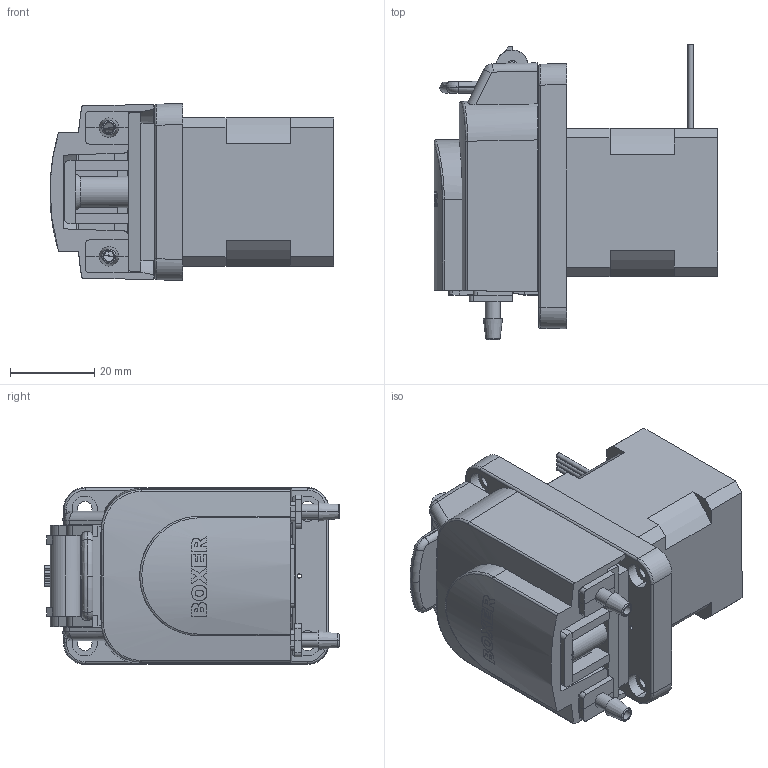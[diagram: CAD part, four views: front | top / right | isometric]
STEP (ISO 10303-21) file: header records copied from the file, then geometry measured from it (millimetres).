
FILE_DESCRIPTION (( 'STEP AP203' ), '1' );
FILE_NAME ('9QQ Stepper.STEP', '2015-03-26T19:58:18', ( 'USER' ), ( '' ), 'SwSTEP 2.0', 'SolidWorks 2014', '' );
FILE_SCHEMA (( 'CONFIG_CONTROL_DESIGN' ));
Length unit declared in the file: millimetre
Products named in the file (1): 9QQ Stepper
Bounding box: 67.5 x 70.2 x 42 mm (x, y, z)
Surface area: 25040.6 mm2 (no closed solid volume)
Topology: 0 solids, 10 shells, 456 faces, 1550 edges, 1083 vertices
Faces by surface type: plane 203, cylinder 145, bspline 55, cone 29, torus 24
Entity records: 19087 total; most frequent: CARTESIAN_POINT 6245, DIRECTION 2561, ORIENTED_EDGE 2528, EDGE_CURVE 1550, VERTEX_POINT 1083, AXIS2_PLACEMENT_3D 882, LINE 797, VECTOR 797
